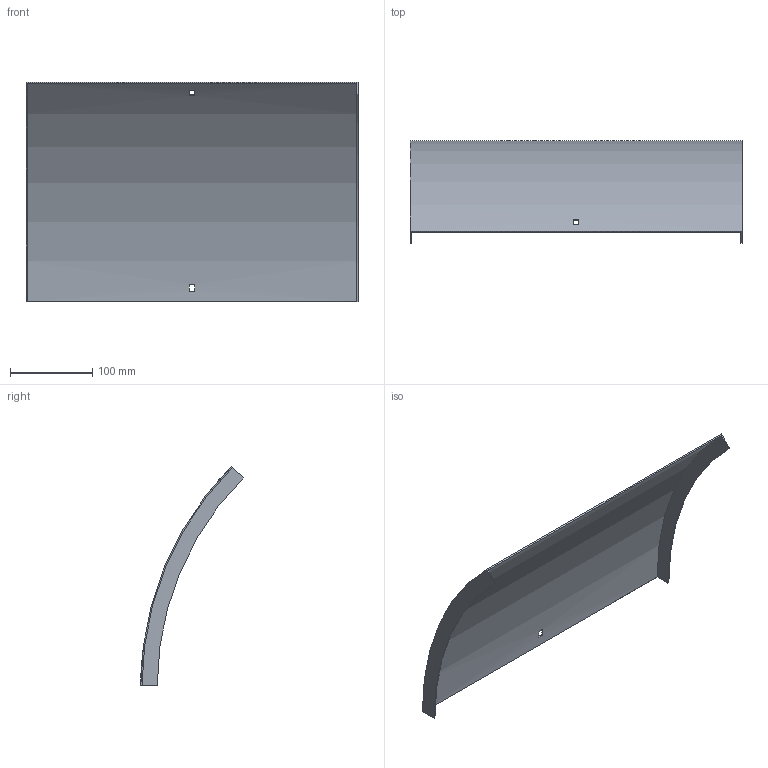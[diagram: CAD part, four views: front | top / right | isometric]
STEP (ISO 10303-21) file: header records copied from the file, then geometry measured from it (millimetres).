
FILE_DESCRIPTION (( 'STEP AP214' ), '1' );
FILE_NAME ('B2_34N3C400.step', '2025-02-21T10:35:58', ( '' ), ( '' ), 'SwSTEP 2.0', 'SolidWorks 2023', '' );
FILE_SCHEMA (( 'AUTOMOTIVE_DESIGN' ));
Length unit declared in the file: millimetre
Products named in the file (1): B2_34N3C400
Bounding box: 403 x 124.42 x 266.23 mm (x, y, z)
Volume: 194163.2 mm3; surface area: 261139.2 mm2
Topology: 1 solids, 1 shells, 18 faces, 48 edges, 32 vertices
Faces by surface type: plane 14, cylinder 4
Entity records: 599 total; most frequent: DIRECTION 102, CARTESIAN_POINT 99, ORIENTED_EDGE 96, EDGE_CURVE 48, AXIS2_PLACEMENT_3D 35, VECTOR 32, VERTEX_POINT 32, LINE 32
